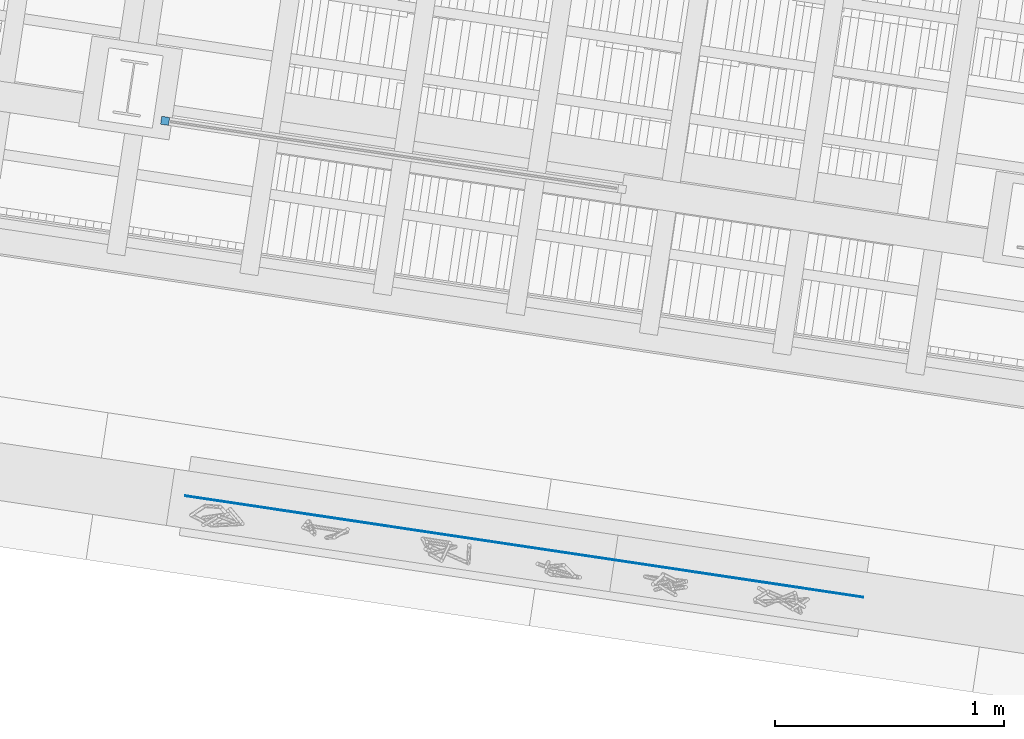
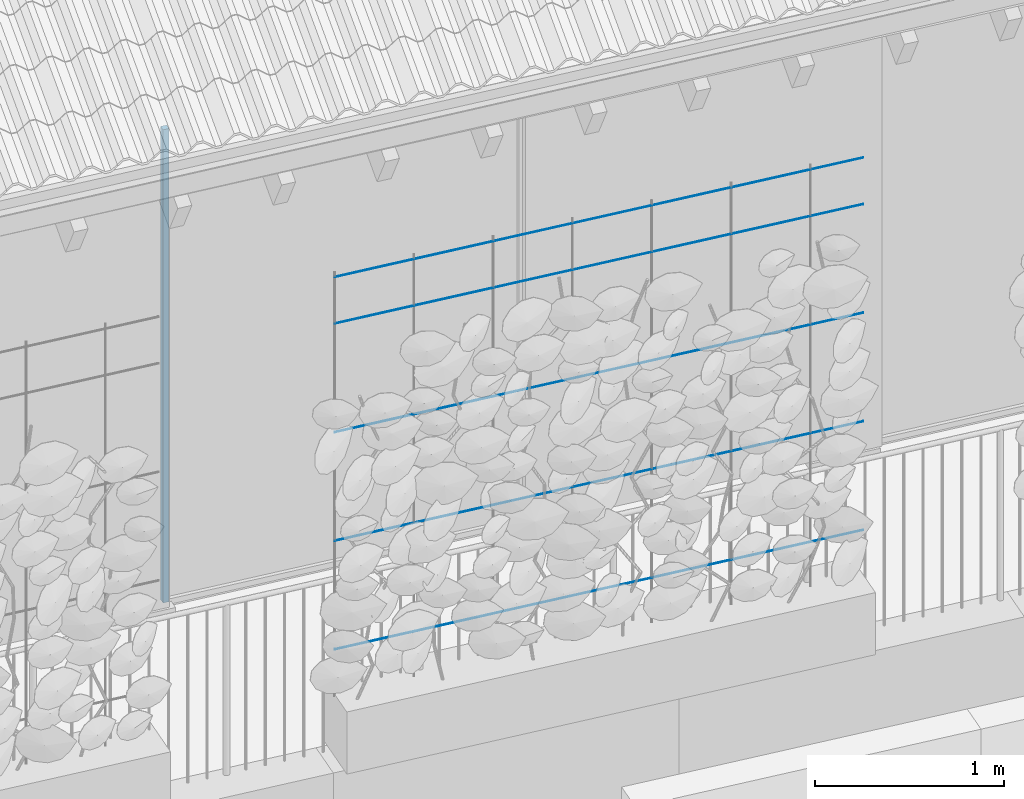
# One storey, part 73 of 128: 6 members, 1 element without a shape of its own.
"""IFC4 building model written with IfcOpenShell, lengths in metres."""

from ifc_helpers import new_model, si_unit, direction, frame, origin_with_axes, place, context, subcontext, project, spatial, rectangle, circle, extrude, material, material_profile, profile_set, profile_usage, type_object, element, aggregate, save


model = new_model("IFC4")

# Units and contexts
model_context = context("Model", 3, precision=1e-05, world=origin_with_axes(), true_north=direction((0.0, 1.0)))
body_context = subcontext(model_context, "Body", "Model", "MODEL_VIEW")
ifc_project = project(units=[si_unit("VOLUMEUNIT", "CUBIC_METRE"), si_unit("LENGTHUNIT", "METRE"), si_unit("AREAUNIT", "SQUARE_METRE")], contexts=[model_context])

# Site, building, storey
site_placement = place(None, origin_with_axes())
site = spatial("IfcSite", under=ifc_project, at=site_placement, Name="Lares · Rua das Mercês · artigo 4771")
building_placement = place(site_placement, frame((15.0, 9.7, 13.9), z_axis=(0.0, 0.0, 1.0), x_axis=(0.989015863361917, -0.147809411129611, 0.0)))
building = spatial("IfcBuilding", under=site, at=building_placement, Name="Casa Sobreposta")
storey_placement = place(building_placement, origin_with_axes())
storey = spatial("IfcBuildingStorey", under=building, at=storey_placement, Name="00 · Habitação e estacionamento", Elevation=13.9)

# Member
ifc_material_1 = material(Name="Aço pintado / Stahl lackiert", Category="steel")
ifc_material_profile_1 = material_profile(ifc_material_1, rectangle(XDim=0.035, YDim=0.035))
ifc_profile_set_1 = profile_set([ifc_material_profile_1], Name="R0.035")
ifc_profile_usage_1 = profile_usage(ifc_profile_set_1)
member_type_1 = type_object("IfcMemberType", Name="R0.035 / steel", PredefinedType="NOTDEFINED", material=ifc_profile_set_1)
member_1_placement = place(storey_placement, frame((16.1706666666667, 0.0, 0.0), z_axis=(0.0, 0.0, 1.0), x_axis=(1.0, 0.0, 0.0)))
element("IfcMember", 1, at=member_1_placement, inside=storey, type_object=member_type_1, material=ifc_profile_usage_1, Name="Folha de correr sul 8 · montante", context=body_context, shape_type="SweptSolid", body=[
    extrude(rectangle(XDim=0.035, YDim=0.035), origin_with_axes(), (0.0, 0.0, 1.0), 3.05),
])

# Assembly, members
assembly_placement = place(storey_placement, origin_with_axes())
assembly = element("IfcElementAssembly", 2, at=assembly_placement, inside=storey, Name="Fachada sul e pátio · estrutura e trepadeiras", ObjectType="LIVING_SHADE_TRELLIS", PredefinedType="USERDEFINED")
ifc_material_2 = material(Name="Aço galvanizado / Stahl verzinkt", Category="steel")
ifc_material_profile_2 = material_profile(ifc_material_2, circle(Radius=0.002))
ifc_profile_set_2 = profile_set([ifc_material_profile_2], Name="D0.004")
ifc_profile_usage_2 = profile_usage(ifc_profile_set_2)
member_type_2 = type_object("IfcMemberType", Name="D0.004 / galvanized", PredefinedType="NOTDEFINED", material=ifc_profile_set_2)
member_2_placement = place(assembly_placement, frame((16.5, -1.61, 0.65), z_axis=(1.0, 0.0, 0.0), x_axis=(0.0, -1.0, 0.0)))
member_2 = element("IfcMember", 3, at=member_2_placement, type_object=member_type_2, material=ifc_profile_usage_2, Name="Trepadeiras · fio horizontal", context=body_context, shape_type="SweptSolid", body=[
    extrude(circle(Radius=0.002), origin_with_axes(), (0.0, 0.0, 1.0), 3.0),
])
ifc_profile_usage_3 = profile_usage(ifc_profile_set_2)
member_3_placement = place(assembly_placement, frame((16.5, -1.61, 1.35), z_axis=(1.0, 0.0, 0.0), x_axis=(0.0, -1.0, 0.0)))
member_3 = element("IfcMember", 4, at=member_3_placement, type_object=member_type_2, material=ifc_profile_usage_3, Name="Trepadeiras · fio horizontal", context=body_context, shape_type="SweptSolid", body=[
    extrude(circle(Radius=0.002), origin_with_axes(), (0.0, 0.0, 1.0), 3.0),
])
ifc_profile_usage_4 = profile_usage(ifc_profile_set_2)
member_4_placement = place(assembly_placement, frame((16.5, -1.61, 2.05), z_axis=(1.0, 0.0, 0.0), x_axis=(0.0, -1.0, 0.0)))
member_4 = element("IfcMember", 5, at=member_4_placement, type_object=member_type_2, material=ifc_profile_usage_4, Name="Trepadeiras · fio horizontal", context=body_context, shape_type="SweptSolid", body=[
    extrude(circle(Radius=0.002), origin_with_axes(), (0.0, 0.0, 1.0), 3.0),
])
ifc_profile_usage_5 = profile_usage(ifc_profile_set_2)
member_5_placement = place(assembly_placement, frame((16.5, -1.61, 2.75), z_axis=(1.0, 0.0, 0.0), x_axis=(0.0, -1.0, 0.0)))
member_5 = element("IfcMember", 6, at=member_5_placement, type_object=member_type_2, material=ifc_profile_usage_5, Name="Trepadeiras · fio horizontal", context=body_context, shape_type="SweptSolid", body=[
    extrude(circle(Radius=0.002), origin_with_axes(), (0.0, 0.0, 1.0), 3.0),
])
ifc_profile_usage_6 = profile_usage(ifc_profile_set_2)
member_6_placement = place(assembly_placement, frame((16.5, -1.61, 3.05), z_axis=(1.0, 0.0, 0.0), x_axis=(0.0, -1.0, 0.0)))
member_6 = element("IfcMember", 7, at=member_6_placement, type_object=member_type_2, material=ifc_profile_usage_6, Name="Trepadeiras · fio horizontal", context=body_context, shape_type="SweptSolid", body=[
    extrude(circle(Radius=0.002), origin_with_axes(), (0.0, 0.0, 1.0), 3.0),
])
aggregate(assembly, [member_2, member_3, member_4, member_5, member_6])

save(model, "model.ifc")
